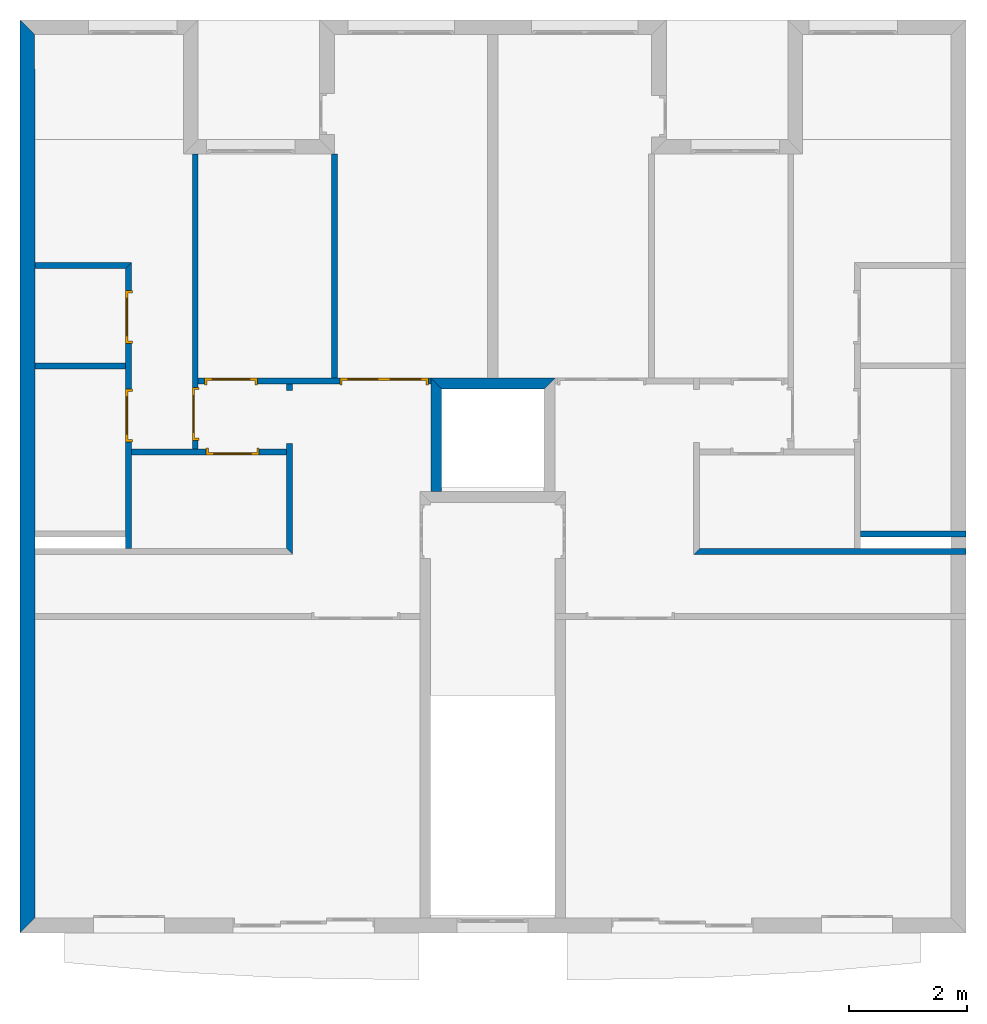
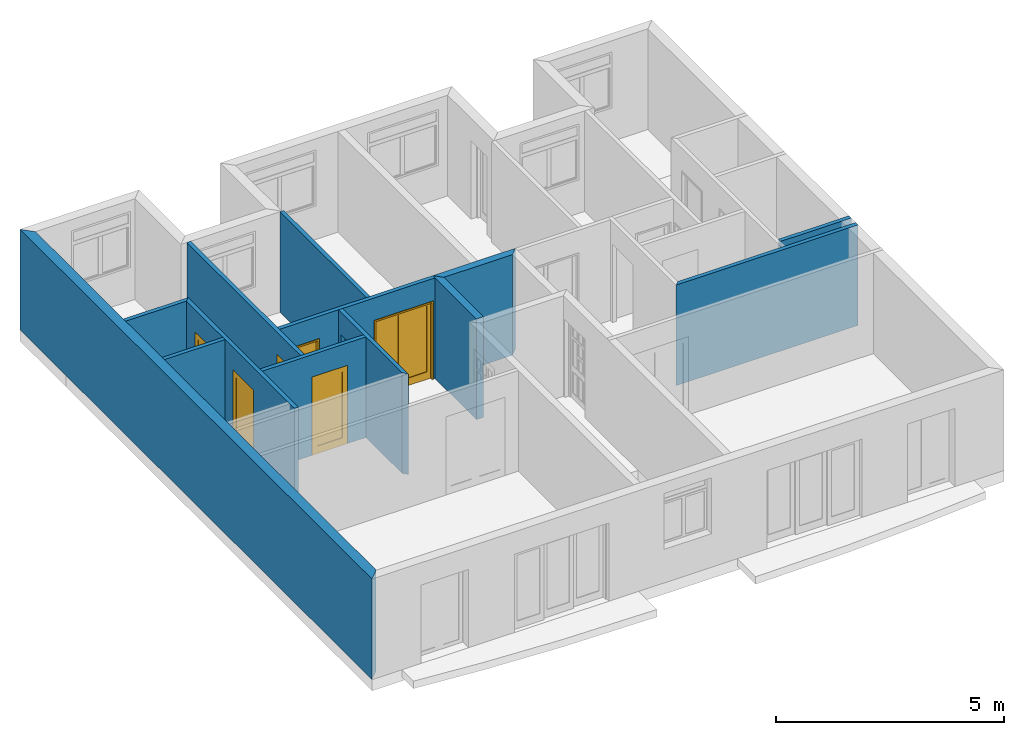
# One storey, part 7 of 11: 13 walls, 6 doors, 7 openings.
"""IFC2X3 building model written with IfcOpenShell, lengths in metres."""

from ifc_helpers import new_model, entity, si_unit, converted_unit, direction, frame, frame_2d, origin_with_axes, place, context, project, spatial, polyline, rectangle, outline, extrude, faceted_brep, source, transform, mapped, material, layer, layer_set, layer_usage, type_object, element, fill, save


model = new_model("IFC2X3")

# Units and contexts
context_of_model = context(None, 3, precision=1e-05, world=origin_with_axes(), true_north=direction((6.123234e-17, 1.0)))
plan_context = context("Plan", 3, precision=1e-05, world=origin_with_axes(), true_north=direction((6.123234e-17, 1.0)))
model_context = context("Model", 3, precision=1e-05, world=origin_with_axes(), true_north=direction((6.123234e-17, 1.0)))
ifc_project = project(units=[si_unit("LENGTHUNIT", "METRE"), si_unit("AREAUNIT", "SQUARE_METRE"), si_unit("VOLUMEUNIT", "CUBIC_METRE"), converted_unit("PLANEANGLEUNIT", "DEGREE", entity("IfcPlaneAngleMeasure", 0.017453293), si_unit("PLANEANGLEUNIT", "RADIAN"), dimensions=[0, 0, 0, 0, 0, 0, 0]), si_unit("SOLIDANGLEUNIT", "STERADIAN"), si_unit("MASSUNIT", "GRAM"), si_unit("TIMEUNIT", "SECOND"), si_unit("THERMODYNAMICTEMPERATUREUNIT", "DEGREE_CELSIUS"), si_unit("LUMINOUSINTENSITYUNIT", "LUMEN")], contexts=[context_of_model, plan_context, model_context])

# Site, building, storey
site_placement = place(None, origin_with_axes())
site = spatial("IfcSite", under=ifc_project, at=site_placement, Name="Por defecto Sitio", CompositionType="ELEMENT")
building_placement = place(site_placement, origin_with_axes())
building = spatial("IfcBuilding", under=site, at=building_placement, Name="Por defecto Edificio", CompositionType="ELEMENT")
storey_placement = place(building_placement, frame((0.0, 0.0, 13.2), z_axis=(0.0, 0.0, 1.0), x_axis=(1.0, 0.0, 0.0)))
storey = spatial("IfcBuildingStorey", under=building, at=storey_placement, Name="Cuarta", CompositionType="ELEMENT", Elevation=13.2)

# Walls
ifc_material_1 = material(Name="Doble 1:4")
ifc_layer_1 = layer(ifc_material_1, 0.25, ventilated="UNKNOWN")
ifc_layer_set_1 = layer_set([ifc_layer_1], Name="Doble 1:4")
ifc_layer_usage_1 = layer_usage(ifc_layer_set_1, "AXIS2", "NEGATIVE", 0.0)
wall_type_1 = type_object("IfcWallType", Name="Doble 1:4", PredefinedType="NOTDEFINED")
wall_1_placement = place(storey_placement, frame((0.0, 0.0, 0.0), z_axis=(0.0, 0.0, 1.0), x_axis=(-3.0822116e-05, 1.0, 0.0)))
element("IfcWallStandardCase", 1, at=wall_1_placement, inside=storey, type_object=wall_type_1, material=ifc_layer_usage_1, Name="Muro-011", context=context_of_model, shape_type="SweptSolid", body=[
    extrude(outline(polyline([(0.24999229, -0.25), (15.222591, -0.25), (15.472599, -1.0842022e-19), (0.0, 0.0), (0.24999229, -0.25)])), origin_with_axes(), (0.0, 0.0, 1.0), 2.7),
])
ifc_material_2 = material(Name="Ladrillo común")
ifc_layer_2 = layer(ifc_material_2, 0.18, ventilated="UNKNOWN")
ifc_layer_set_2 = layer_set([ifc_layer_2], Name="Ladrillo común")
ifc_layer_usage_2 = layer_usage(ifc_layer_set_2, "AXIS2", "NEGATIVE", 0.0)
wall_type_2 = type_object("IfcWallType", Name="Ladrillo común", PredefinedType="NOTDEFINED")
wall_2_placement = place(storey_placement, frame((6.965, 9.4007615, 0.0), z_axis=(0.0, 0.0, 1.0), x_axis=(1.0, 0.0, 0.0)))
element("IfcWallStandardCase", 2, at=wall_2_placement, inside=storey, type_object=wall_type_2, material=ifc_layer_usage_2, Name="Muro-012", context=context_of_model, shape_type="SweptSolid", body=[
    extrude(outline(polyline([(0.18, -0.18), (1.92, -0.18), (2.1, 0.0), (-8.8817842e-16, 0.0), (0.18, -0.18)])), origin_with_axes(), (0.0, 0.0, 1.0), 2.7),
])
ifc_layer_usage_3 = layer_usage(ifc_layer_set_2, "AXIS2", "NEGATIVE", 0.0)
wall_3_placement = place(storey_placement, frame((6.965, 7.2976562, 0.0), z_axis=(0.0, 0.0, 1.0), x_axis=(0.0, 1.0, 0.0)))
element("IfcWallStandardCase", 3, at=wall_3_placement, inside=storey, type_object=wall_type_2, material=ifc_layer_usage_3, Name="Muro-011", context=context_of_model, shape_type="SweptSolid", body=[
    extrude(outline(polyline([(0.18, -0.18), (1.9231052, -0.18), (2.1031052, 0.0), (0.18, 8.8817842e-16), (0.18, -0.18)])), origin_with_axes(), (0.0, 0.0, 1.0), 2.7),
])
ifc_layer_3 = layer(ifc_material_2, 0.1, ventilated="UNKNOWN")
ifc_layer_set_3 = layer_set([ifc_layer_3], Name="Ladrillo común")
ifc_layer_usage_4 = layer_usage(ifc_layer_set_3, "AXIS2", "NEGATIVE", 0.0)
wall_type_3 = type_object("IfcWallType", Name="Ladrillo común", PredefinedType="NOTDEFINED")
wall_4_placement = place(storey_placement, frame((14.245327, 6.8118781, 0.0), z_axis=(0.0, 0.0, 1.0), x_axis=(1.0, 7.740581e-05, 0.0)))
element("IfcWallStandardCase", 4, at=wall_4_placement, inside=storey, type_object=wall_type_3, material=ifc_layer_usage_4, Name="Muro-021", context=context_of_model, shape_type="SweptSolid", body=[
    extrude(outline(polyline([(-4.5792175e-06, -0.1), (1.7904075, -0.1), (1.7904075, -8.8817842e-16), (-6.6233584e-06, -8.8817842e-16), (-4.5792175e-06, -0.1)])), origin_with_axes(), (0.0, 0.0, 1.0), 2.7),
])
ifc_layer_usage_5 = layer_usage(ifc_layer_set_3, "AXIS2", "NEGATIVE", 0.0)
wall_5_placement = place(storey_placement, frame((11.515557, 6.51159, 0.0), z_axis=(0.0, 0.0, 1.0), x_axis=(1.0, 7.5775334e-05, 0.0)))
element("IfcWallStandardCase", 5, at=wall_5_placement, inside=storey, type_object=wall_type_3, material=ifc_layer_usage_5, Name="Muro-020", context=context_of_model, shape_type="SweptSolid", body=[
    extrude(outline(polyline([(-0.099998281, -0.1), (4.5202007, -0.1), (4.5202007, 0.0), (0.0, 0.0), (-0.099998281, -0.1)])), origin_with_axes(), (0.0, 0.0, 1.0), 2.7),
])
ifc_layer_usage_6 = layer_usage(ifc_layer_set_3, "AXIS2", "POSITIVE", 0.0)
wall_6_placement = place(storey_placement, frame((5.3815582, 9.4007615, 0.0), z_axis=(0.0, 0.0, 1.0), x_axis=(0.0, 1.0, 0.0)))
element("IfcWallStandardCase", 6, at=wall_6_placement, inside=storey, type_object=wall_type_3, material=ifc_layer_usage_6, Name="Muro-026", context=context_of_model, shape_type="SweptSolid", body=[
    extrude(outline(polyline([(0.0, 0.0), (3.7984111, 0.0), (3.7984111, 0.1), (0.0, 0.1), (0.0, 0.0)])), origin_with_axes(), (0.0, 0.0, 1.0), 2.7),
])

# Wall, openings, doors
ifc_layer_usage_7 = layer_usage(ifc_layer_set_3, "AXIS2", "POSITIVE", 0.0)
wall_7_placement = place(storey_placement, frame((6.965, 9.4007615, 0.0), z_axis=(0.0, 0.0, 1.0), x_axis=(-1.0, -7.8004649e-06, 0.0)))
wall_7 = element("IfcWallStandardCase", 7, at=wall_7_placement, inside=storey, type_object=wall_type_3, material=ifc_layer_usage_7, Name="Muro-025", context=context_of_model, shape_type="SweptSolid", body=[
    extrude(outline(polyline([(8.8817842e-16, 0.0), (3.9449598, -1.7763568e-15), (3.9449596, 0.1), (7.8004649e-07, 0.1), (8.8817842e-16, 0.0)])), origin_with_axes(), (0.0, 0.0, 1.0), 2.7),
])
opening_1_placement = place(wall_7_placement, frame((3.3886584, 0.0, 0.0), z_axis=(0.0, 0.0, 1.0), x_axis=(1.0, 0.0, 0.0)))
opening_1 = element("IfcOpeningElement", 8, at=opening_1_placement, cuts=wall_7, ObjectType="Opening", context=model_context, shape_type="SweptSolid", body=[
    extrude(rectangle(XDim=0.9, YDim=2.1, at=frame_2d((6.6613381e-16, 1.05), x_axis=(-1.0, -2.1147105e-16))), frame((0.0, 0.0, 0.0), z_axis=(0.0, 1.0, 0.0), x_axis=(-1.0, 0.0, 0.0)), (0.0, 0.0, 1.0), 0.1),
])
opening_2_placement = place(wall_7_placement, frame((0.7934418, 0.0, 0.0), z_axis=(0.0, 0.0, 1.0), x_axis=(1.0, 0.0, 0.0)))
opening_2 = element("IfcOpeningElement", 9, at=opening_2_placement, cuts=wall_7, ObjectType="Opening", context=model_context, shape_type="SweptSolid", body=[
    extrude(rectangle(XDim=1.5, YDim=2.1, at=frame_2d((8.8817842e-16, 1.05), x_axis=(1.0, 0.0))), frame((0.0, 0.0, 0.0), z_axis=(0.0, 1.0, 0.0), x_axis=(-1.0, 0.0, 0.0)), (0.0, 0.0, 1.0), 0.1),
])
door_style_1 = type_object("IfcDoorStyle", Name="P1 12", ConstructionType="NOTDEFINED", OperationType="SINGLE_SWING_LEFT", ParameterTakesPrecedence=False, Sizeable=False)
shared_shape_1 = source(origin_with_axes(), model_context, "Body", "Brep", [
    faceted_brep([(0.86, 0.075, 0.0), (0.86, 0.0, 0.0), (0.86, 0.0, 2.06), (0.86, 0.075, 2.06), (0.872, 0.075, 0.0), (0.872, 0.115, 0.0), (0.9, 0.115, 0.0), (0.9, 0.0, 0.0), (0.9, 0.0, 2.06), (0.872, 0.075, 2.06), (0.9, 0.115, 2.06), (0.872, 0.115, 2.06)], [[[0, 1, 2, 3]], [[4, 5, 6, 7, 1, 0]], [[7, 8, 2, 1]], [[9, 3, 2, 8, 10, 11]], [[9, 4, 0, 3]], [[11, 5, 4, 9]], [[11, 10, 6, 5]], [[8, 7, 6, 10]]]),
    faceted_brep([(0.028, 0.075, 2.06), (0.028, 0.115, 2.06), (-4.4408921e-16, 0.115, 2.06), (-4.4408921e-16, 0.0, 2.06), (0.04, 0.0, 2.06), (0.04, 0.075, 2.06), (0.028, 0.075, 0.0), (0.028, 0.115, 0.0), (-4.4408921e-16, 0.115, 0.0), (0.0, 0.0, 0.0), (0.04, 0.0, 0.0), (0.04, 0.075, 0.0)], [[[0, 1, 2, 3, 4, 5]], [[0, 6, 7, 1]], [[7, 8, 2, 1]], [[9, 3, 2, 8]], [[10, 4, 3, 9]], [[5, 4, 10, 11]], [[5, 11, 6, 0]], [[6, 11, 10, 9, 8, 7]]]),
    faceted_brep([(0.872, 0.115, 2.072), (0.028, 0.115, 2.072), (0.028, 0.115, 2.06), (-4.4408921e-16, 0.115, 2.06), (-4.4408921e-16, 0.115, 2.1), (0.9, 0.115, 2.1), (0.9, 0.115, 2.06), (0.872, 0.115, 2.06), (0.872, 0.075, 2.072), (0.028, 0.075, 2.072), (0.028, 0.075, 2.06), (0.04, 0.075, 2.06), (0.04, 0.0, 2.06), (-4.4408921e-16, 0.0, 2.06), (-4.4408921e-16, 0.0, 2.1), (0.9, 0.0, 2.1), (0.9, 0.0, 2.06), (0.872, 0.075, 2.06), (0.86, 0.0, 2.06), (0.86, 0.075, 2.06)], [[[0, 1, 2, 3, 4, 5, 6, 7]], [[0, 8, 9, 1]], [[1, 9, 10, 2]], [[10, 11, 12, 13, 3, 2]], [[13, 14, 4, 3]], [[14, 15, 5, 4]], [[15, 16, 6, 5]], [[17, 7, 6, 16, 18, 19]], [[7, 17, 8, 0]], [[10, 9, 8, 17, 19, 11]], [[19, 18, 12, 11]], [[14, 13, 12, 18, 16, 15]]]),
    faceted_brep([(0.028, 0.115, 0.2), (0.128, 0.115, 0.2), (0.128, 0.075, 0.2), (0.028, 0.075, 0.2), (0.028, 0.115, 1.972), (0.128, 0.115, 1.972), (0.128, 0.075, 1.972), (0.028, 0.075, 1.972)], [[[0, 1, 2, 3]], [[0, 4, 5, 1]], [[1, 5, 6, 2]], [[3, 2, 6, 7]], [[4, 0, 3, 7]], [[5, 4, 7, 6]]]),
    faceted_brep([(0.872, 0.115, 0.2), (0.872, 0.115, 1.972), (0.872, 0.075, 1.972), (0.872, 0.075, 0.2), (0.772, 0.115, 0.2), (0.772, 0.115, 1.972), (0.772, 0.075, 1.972), (0.772, 0.075, 0.2)], [[[0, 1, 2, 3]], [[0, 4, 5, 1]], [[1, 5, 6, 2]], [[3, 2, 6, 7]], [[4, 0, 3, 7]], [[5, 4, 7, 6]]]),
    faceted_brep([(0.028, 0.115, 0.0), (0.872, 0.115, 0.0), (0.872, 0.075, 0.0), (0.028, 0.075, 0.0), (0.028, 0.115, 0.2), (0.128, 0.115, 0.2), (0.772, 0.115, 0.2), (0.872, 0.115, 0.2), (0.872, 0.075, 0.2), (0.772, 0.075, 0.2), (0.128, 0.075, 0.2), (0.028, 0.075, 0.2)], [[[0, 1, 2, 3]], [[0, 4, 5, 6, 7, 1]], [[1, 7, 8, 2]], [[3, 2, 8, 9, 10, 11]], [[4, 0, 3, 11]], [[5, 4, 11, 10]], [[6, 5, 10, 9]], [[7, 6, 9, 8]]]),
    faceted_brep([(0.028, 0.115, 2.072), (0.028, 0.115, 1.972), (0.028, 0.075, 1.972), (0.028, 0.075, 2.072), (0.872, 0.115, 2.072), (0.872, 0.115, 1.972), (0.772, 0.115, 1.972), (0.128, 0.115, 1.972), (0.128, 0.075, 1.972), (0.772, 0.075, 1.972), (0.872, 0.075, 1.972), (0.872, 0.075, 2.072)], [[[0, 1, 2, 3]], [[0, 4, 5, 6, 7, 1]], [[1, 7, 8, 2]], [[3, 2, 8, 9, 10, 11]], [[4, 0, 3, 11]], [[5, 4, 11, 10]], [[6, 5, 10, 9]], [[7, 6, 9, 8]]]),
    faceted_brep([(0.128, 0.101, 0.2), (0.772, 0.101, 0.2), (0.772, 0.089, 0.2), (0.128, 0.089, 0.2), (0.128, 0.101, 1.972), (0.772, 0.101, 1.972), (0.772, 0.089, 1.972), (0.128, 0.089, 1.972)], [[[0, 1, 2, 3]], [[0, 4, 5, 1]], [[1, 5, 6, 2]], [[3, 2, 6, 7]], [[4, 0, 3, 7]], [[5, 4, 7, 6]]]),
])
door_1_placement = place(opening_1_placement, frame((0.45, 0.115, 0.0), z_axis=(0.0, 0.0, 1.0), x_axis=(-1.0, 0.0, 0.0)))
door_1 = element("IfcDoor", 10, at=door_1_placement, inside=storey, type_object=door_style_1, Name="P19", OverallHeight=2.1, OverallWidth=0.9, context=model_context, shape_type="MappedRepresentation", body=[
    mapped(shared_shape_1, transform((0.0, 0.0, 0.0), scale=1.0)),
])
fill(opening_1, door_1)
door_style_2 = type_object("IfcDoorStyle", Name="P2 12", ConstructionType="NOTDEFINED", OperationType="DOUBLE_DOOR_SINGLE_SWING", ParameterTakesPrecedence=False, Sizeable=False)
shared_shape_2 = source(origin_with_axes(), model_context, "Body", "Brep", [
    faceted_brep([(0.04, 0.075, 0.0), (0.04, 0.075, 2.06), (0.04, 0.0, 2.06), (0.04, 0.0, 0.0), (0.028, 0.075, 2.06), (0.028, 0.075, 0.0), (0.028, 0.115, 2.06), (0.0, 0.115, 2.06), (0.0, 0.0, 2.06), (0.0, 0.0, 0.0), (0.0, 0.115, 0.0), (0.028, 0.115, 0.0)], [[[0, 1, 2, 3]], [[4, 1, 0, 5]], [[4, 6, 7, 8, 2, 1]], [[9, 3, 2, 8]], [[5, 0, 3, 9, 10, 11]], [[6, 4, 5, 11]], [[6, 11, 10, 7]], [[8, 7, 10, 9]]]),
    faceted_brep([(1.472, 0.075, 2.06), (1.46, 0.075, 2.06), (1.46, 0.0, 2.06), (1.5, 0.0, 2.06), (1.5, 0.115, 2.06), (1.472, 0.115, 2.06), (1.472, 0.075, 0.0), (1.46, 0.075, 0.0), (1.46, 0.0, 0.0), (1.5, 0.0, 0.0), (1.5, 0.115, 0.0), (1.472, 0.115, 0.0)], [[[0, 1, 2, 3, 4, 5]], [[1, 0, 6, 7]], [[1, 7, 8, 2]], [[8, 9, 3, 2]], [[9, 10, 4, 3]], [[11, 5, 4, 10]], [[0, 5, 11, 6]], [[6, 11, 10, 9, 8, 7]]]),
    faceted_brep([(0.028, 0.115, 2.072), (0.028, 0.115, 2.06), (0.0, 0.115, 2.06), (0.0, 0.115, 2.1), (1.5, 0.115, 2.1), (1.5, 0.115, 2.06), (1.472, 0.115, 2.06), (1.472, 0.115, 2.072), (0.028, 0.075, 2.072), (0.028, 0.075, 2.06), (0.04, 0.075, 2.06), (0.04, 0.0, 2.06), (0.0, 0.0, 2.06), (0.0, 0.0, 2.1), (1.5, 0.0, 2.1), (1.5, 0.0, 2.06), (1.472, 0.075, 2.06), (1.46, 0.0, 2.06), (1.46, 0.075, 2.06), (1.472, 0.075, 2.072)], [[[0, 1, 2, 3, 4, 5, 6, 7]], [[1, 0, 8, 9]], [[9, 10, 11, 12, 2, 1]], [[13, 3, 2, 12]], [[14, 4, 3, 13]], [[15, 5, 4, 14]], [[16, 6, 5, 15, 17, 18]], [[7, 6, 16, 19]], [[0, 7, 19, 8]], [[16, 18, 10, 9, 8, 19]], [[10, 18, 17, 11]], [[14, 13, 12, 11, 17, 15]]]),
    faceted_brep([(1.472, 0.115, 0.2), (1.472, 0.075, 0.2), (1.372, 0.075, 0.2), (1.372, 0.115, 0.2), (1.472, 0.115, 1.972), (1.472, 0.075, 1.972), (1.372, 0.075, 1.972), (1.372, 0.115, 1.972)], [[[0, 1, 2, 3]], [[4, 5, 1, 0]], [[1, 5, 6, 2]], [[3, 2, 6, 7]], [[0, 3, 7, 4]], [[7, 6, 5, 4]]]),
    faceted_brep([(0.751, 0.115, 0.2), (0.751, 0.075, 0.2), (0.751, 0.075, 1.972), (0.751, 0.115, 1.972), (0.851, 0.115, 0.2), (0.851, 0.075, 0.2), (0.851, 0.075, 1.972), (0.851, 0.115, 1.972)], [[[0, 1, 2, 3]], [[4, 5, 1, 0]], [[1, 5, 6, 2]], [[3, 2, 6, 7]], [[0, 3, 7, 4]], [[7, 6, 5, 4]]]),
    faceted_brep([(1.472, 0.115, 0.0), (1.472, 0.075, 0.0), (0.751, 0.075, 0.0), (0.751, 0.115, 0.0), (1.472, 0.115, 0.2), (1.472, 0.075, 0.2), (1.372, 0.075, 0.2), (0.851, 0.075, 0.2), (0.751, 0.075, 0.2), (0.751, 0.115, 0.2), (0.851, 0.115, 0.2), (1.372, 0.115, 0.2)], [[[0, 1, 2, 3]], [[4, 5, 1, 0]], [[1, 5, 6, 7, 8, 2]], [[3, 2, 8, 9]], [[0, 3, 9, 10, 11, 4]], [[11, 6, 5, 4]], [[10, 7, 6, 11]], [[9, 8, 7, 10]]]),
    faceted_brep([(1.472, 0.115, 2.072), (1.472, 0.075, 2.072), (1.472, 0.075, 1.972), (1.472, 0.115, 1.972), (0.751, 0.115, 2.072), (0.751, 0.075, 2.072), (0.751, 0.075, 1.972), (0.851, 0.075, 1.972), (1.372, 0.075, 1.972), (1.372, 0.115, 1.972), (0.851, 0.115, 1.972), (0.751, 0.115, 1.972)], [[[0, 1, 2, 3]], [[4, 5, 1, 0]], [[1, 5, 6, 7, 8, 2]], [[3, 2, 8, 9]], [[0, 3, 9, 10, 11, 4]], [[11, 6, 5, 4]], [[10, 7, 6, 11]], [[9, 8, 7, 10]]]),
    faceted_brep([(1.372, 0.101, 0.2), (1.372, 0.089, 0.2), (0.851, 0.089, 0.2), (0.851, 0.101, 0.2), (1.372, 0.101, 1.972), (1.372, 0.089, 1.972), (0.851, 0.089, 1.972), (0.851, 0.101, 1.972)], [[[0, 1, 2, 3]], [[4, 5, 1, 0]], [[1, 5, 6, 2]], [[3, 2, 6, 7]], [[0, 3, 7, 4]], [[7, 6, 5, 4]]]),
    faceted_brep([(0.028, 0.115, 0.2), (0.128, 0.115, 0.2), (0.128, 0.075, 0.2), (0.028, 0.075, 0.2), (0.028, 0.115, 1.972), (0.128, 0.115, 1.972), (0.128, 0.075, 1.972), (0.028, 0.075, 1.972)], [[[0, 1, 2, 3]], [[0, 4, 5, 1]], [[1, 5, 6, 2]], [[3, 2, 6, 7]], [[4, 0, 3, 7]], [[5, 4, 7, 6]]]),
    faceted_brep([(0.749, 0.115, 0.2), (0.749, 0.115, 1.972), (0.749, 0.075, 1.972), (0.749, 0.075, 0.2), (0.649, 0.115, 0.2), (0.649, 0.115, 1.972), (0.649, 0.075, 1.972), (0.649, 0.075, 0.2)], [[[0, 1, 2, 3]], [[0, 4, 5, 1]], [[1, 5, 6, 2]], [[3, 2, 6, 7]], [[4, 0, 3, 7]], [[5, 4, 7, 6]]]),
    faceted_brep([(0.028, 0.115, 0.0), (0.749, 0.115, 0.0), (0.749, 0.075, 0.0), (0.028, 0.075, 0.0), (0.028, 0.115, 0.2), (0.128, 0.115, 0.2), (0.649, 0.115, 0.2), (0.749, 0.115, 0.2), (0.749, 0.075, 0.2), (0.649, 0.075, 0.2), (0.128, 0.075, 0.2), (0.028, 0.075, 0.2)], [[[0, 1, 2, 3]], [[0, 4, 5, 6, 7, 1]], [[1, 7, 8, 2]], [[3, 2, 8, 9, 10, 11]], [[4, 0, 3, 11]], [[5, 4, 11, 10]], [[6, 5, 10, 9]], [[7, 6, 9, 8]]]),
    faceted_brep([(0.028, 0.115, 2.072), (0.028, 0.115, 1.972), (0.028, 0.075, 1.972), (0.028, 0.075, 2.072), (0.749, 0.115, 2.072), (0.749, 0.115, 1.972), (0.649, 0.115, 1.972), (0.128, 0.115, 1.972), (0.128, 0.075, 1.972), (0.649, 0.075, 1.972), (0.749, 0.075, 1.972), (0.749, 0.075, 2.072)], [[[0, 1, 2, 3]], [[0, 4, 5, 6, 7, 1]], [[1, 7, 8, 2]], [[3, 2, 8, 9, 10, 11]], [[4, 0, 3, 11]], [[5, 4, 11, 10]], [[6, 5, 10, 9]], [[7, 6, 9, 8]]]),
    faceted_brep([(0.128, 0.101, 0.2), (0.649, 0.101, 0.2), (0.649, 0.089, 0.2), (0.128, 0.089, 0.2), (0.128, 0.101, 1.972), (0.649, 0.101, 1.972), (0.649, 0.089, 1.972), (0.128, 0.089, 1.972)], [[[0, 1, 2, 3]], [[0, 4, 5, 1]], [[1, 5, 6, 2]], [[3, 2, 6, 7]], [[4, 0, 3, 7]], [[5, 4, 7, 6]]]),
])
door_2_placement = place(opening_2_placement, frame((0.75, 0.115, 0.0), z_axis=(0.0, 0.0, 1.0), x_axis=(-1.0, 0.0, 0.0)))
door_2 = element("IfcDoor", 11, at=door_2_placement, inside=storey, type_object=door_style_2, Name="P27", OverallHeight=2.1, OverallWidth=1.5, context=model_context, shape_type="MappedRepresentation", body=[
    mapped(shared_shape_2, transform((0.0, 0.0, 0.0), scale=1.0)),
])
fill(opening_2, door_2)

# Wall, opening, door
ifc_layer_usage_8 = layer_usage(ifc_layer_set_3, "AXIS2", "POSITIVE", 0.0)
wall_8_placement = place(storey_placement, frame((3.0200521, 8.2011967, 0.0), z_axis=(0.0, 0.0, 1.0), x_axis=(-9.9218177e-06, 1.0, 0.0)))
wall_8 = element("IfcWallStandardCase", 12, at=wall_8_placement, inside=storey, type_object=wall_type_3, material=ifc_layer_usage_8, Name="Muro-024", context=context_of_model, shape_type="SweptSolid", body=[
    extrude(outline(polyline([(0.0, 0.0), (4.9979759, 4.4408921e-16), (4.9979768, 0.1), (-3.7059306e-07, 0.1), (0.0, 0.0)])), origin_with_axes(), (0.0, 0.0, 1.0), 2.7),
])
opening_3_placement = place(wall_8_placement, frame((0.59454019, 0.0, 0.0), z_axis=(0.0, 0.0, 1.0), x_axis=(1.0, 0.0, 0.0)))
opening_3 = element("IfcOpeningElement", 13, at=opening_3_placement, cuts=wall_8, ObjectType="Opening", context=model_context, shape_type="SweptSolid", body=[
    extrude(rectangle(XDim=0.9, YDim=2.1, at=frame_2d((0.0, 1.05), x_axis=(-1.0, 0.0))), frame((0.0, 0.0, 0.0), z_axis=(0.0, 1.0, 0.0), x_axis=(-1.0, 0.0, 0.0)), (0.0, 0.0, 1.0), 0.1),
])
door_style_3 = type_object("IfcDoorStyle", Name="P1 12", ConstructionType="NOTDEFINED", OperationType="SINGLE_SWING_LEFT", ParameterTakesPrecedence=False, Sizeable=False)
door_3_placement = place(opening_3_placement, frame((-0.45, -0.015, 0.0), z_axis=(0.0, 0.0, 1.0), x_axis=(1.0, 0.0, 0.0)))
door_3 = element("IfcDoor", 14, at=door_3_placement, inside=storey, type_object=door_style_3, Name="P18", OverallHeight=2.1, OverallWidth=0.9, context=model_context, shape_type="MappedRepresentation", body=[
    mapped(shared_shape_1, transform((0.0, 0.0, 0.0), scale=1.0)),
])
fill(opening_3, door_3)

# Walls
ifc_layer_usage_9 = layer_usage(ifc_layer_set_3, "AXIS2", "NEGATIVE", 0.0)
wall_9_placement = place(storey_placement, frame((1.7901652, 9.5609196, 0.0), z_axis=(0.0, 0.0, 1.0), x_axis=(-1.0, -3.0822116e-05, 0.0)))
element("IfcWallStandardCase", 15, at=wall_9_placement, inside=storey, type_object=wall_type_3, material=ifc_layer_usage_9, Name="Muro-023", context=context_of_model, shape_type="SweptSolid", body=[
    extrude(outline(polyline([(-2.220446e-16, -0.1), (1.5404599, -0.1), (1.5404599, 0.0), (0.0, 0.0), (-2.220446e-16, -0.1)])), origin_with_axes(), (0.0, 0.0, 1.0), 2.7),
])
ifc_layer_usage_10 = layer_usage(ifc_layer_set_3, "AXIS2", "NEGATIVE", 0.0)
wall_10_placement = place(storey_placement, frame((1.7901652, 11.26092, 0.0), z_axis=(0.0, 0.0, 1.0), x_axis=(-1.0, -3.0822116e-05, 0.0)))
element("IfcWallStandardCase", 16, at=wall_10_placement, inside=storey, type_object=wall_type_3, material=ifc_layer_usage_10, Name="Muro-022", context=context_of_model, shape_type="SweptSolid", body=[
    extrude(outline(polyline([(-0.10000221, -0.1), (1.5405123, -0.1), (1.5405123, 1.7763568e-15), (0.0, 0.0), (-0.10000221, -0.1)])), origin_with_axes(), (0.0, 0.0, 1.0), 2.7),
])

# Wall, opening, door
ifc_layer_usage_11 = layer_usage(ifc_layer_set_3, "AXIS2", "POSITIVE", 0.0)
wall_11_placement = place(storey_placement, frame((4.52, 8.2012172, 0.0), z_axis=(0.0, 0.0, 1.0), x_axis=(-1.0, -1.3627748e-05, 0.0)))
wall_11 = element("IfcWallStandardCase", 17, at=wall_11_placement, inside=storey, type_object=wall_type_3, material=ifc_layer_usage_11, Name="Muro-024", context=context_of_model, shape_type="SweptSolid", body=[
    extrude(outline(polyline([(0.0, 0.0), (2.629808, 3.5527137e-15), (2.6298085, 0.1), (0.0, 0.1), (0.0, 0.0)])), origin_with_axes(), (0.0, 0.0, 1.0), 2.7),
])
opening_4_placement = place(wall_11_placement, frame((0.91651248, 0.0, 0.0), z_axis=(0.0, 0.0, 1.0), x_axis=(1.0, 0.0, 0.0)))
opening_4 = element("IfcOpeningElement", 18, at=opening_4_placement, cuts=wall_11, ObjectType="Opening", context=model_context, shape_type="SweptSolid", body=[
    extrude(rectangle(XDim=0.9, YDim=2.1, at=frame_2d((-2.220446e-16, 1.05), x_axis=(-1.0, 0.0))), frame((0.0, 0.0, 0.0), z_axis=(0.0, 1.0, 0.0), x_axis=(-1.0, 0.0, 0.0)), (0.0, 0.0, 1.0), 0.1),
])
door_style_4 = type_object("IfcDoorStyle", Name="P1 12", ConstructionType="NOTDEFINED", OperationType="SINGLE_SWING_RIGHT", ParameterTakesPrecedence=False, Sizeable=False)
shared_shape_3 = source(origin_with_axes(), model_context, "Body", "Brep", [
    faceted_brep([(0.04, 0.075, -2.4492936e-18), (0.04, 0.075, 2.06), (0.04, 0.0, 2.06), (0.04, 0.0, -7.0417191e-18), (0.028, 0.075, 2.06), (0.028, 0.075, -2.4492936e-18), (0.028, 0.115, 2.06), (0.0, 0.115, 2.06), (0.0, 0.0, 2.06), (0.0, 0.0, 0.0), (0.0, 0.115, 3.3744595e-33), (0.028, 0.115, 3.2707143e-33)], [[[0, 1, 2, 3]], [[4, 1, 0, 5]], [[4, 6, 7, 8, 2, 1]], [[9, 3, 2, 8]], [[5, 0, 3, 9, 10, 11]], [[6, 4, 5, 11]], [[6, 11, 10, 7]], [[8, 7, 10, 9]]]),
    faceted_brep([(0.872, 0.075, 2.06), (0.86, 0.075, 2.06), (0.86, 0.0, 2.06), (0.9, 0.0, 2.06), (0.9, 0.115, 2.06), (0.872, 0.115, 2.06), (0.872, 0.075, -2.4492936e-18), (0.86, 0.075, -2.4492936e-18), (0.86, 0.0, -7.0417191e-18), (0.9, 0.0, -7.0417191e-18), (0.9, 0.115, -3.3744595e-33), (0.872, 0.115, -3.1644931e-33)], [[[0, 1, 2, 3, 4, 5]], [[1, 0, 6, 7]], [[1, 7, 8, 2]], [[8, 9, 3, 2]], [[9, 10, 4, 3]], [[11, 5, 4, 10]], [[0, 5, 11, 6]], [[6, 11, 10, 9, 8, 7]]]),
    faceted_brep([(0.028, 0.115, 2.072), (0.028, 0.115, 2.06), (0.0, 0.115, 2.06), (0.0, 0.115, 2.1), (0.9, 0.115, 2.1), (0.9, 0.115, 2.06), (0.872, 0.115, 2.06), (0.872, 0.115, 2.072), (0.028, 0.075, 2.072), (0.028, 0.075, 2.06), (0.04, 0.075, 2.06), (0.04, 0.0, 2.06), (0.0, 0.0, 2.06), (0.0, 0.0, 2.1), (0.9, 0.0, 2.1), (0.9, 0.0, 2.06), (0.872, 0.075, 2.06), (0.86, 0.0, 2.06), (0.86, 0.075, 2.06), (0.872, 0.075, 2.072)], [[[0, 1, 2, 3, 4, 5, 6, 7]], [[1, 0, 8, 9]], [[9, 10, 11, 12, 2, 1]], [[13, 3, 2, 12]], [[14, 4, 3, 13]], [[15, 5, 4, 14]], [[16, 6, 5, 15, 17, 18]], [[7, 6, 16, 19]], [[0, 7, 19, 8]], [[16, 18, 10, 9, 8, 19]], [[10, 18, 17, 11]], [[14, 13, 12, 11, 17, 15]]]),
    faceted_brep([(0.872, 0.115, 0.2), (0.872, 0.075, 0.2), (0.772, 0.075, 0.2), (0.772, 0.115, 0.2), (0.872, 0.115, 1.972), (0.872, 0.075, 1.972), (0.772, 0.075, 1.972), (0.772, 0.115, 1.972)], [[[0, 1, 2, 3]], [[4, 5, 1, 0]], [[1, 5, 6, 2]], [[3, 2, 6, 7]], [[0, 3, 7, 4]], [[7, 6, 5, 4]]]),
    faceted_brep([(0.028, 0.115, 0.2), (0.028, 0.075, 0.2), (0.028, 0.075, 1.972), (0.028, 0.115, 1.972), (0.128, 0.115, 0.2), (0.128, 0.075, 0.2), (0.128, 0.075, 1.972), (0.128, 0.115, 1.972)], [[[0, 1, 2, 3]], [[4, 5, 1, 0]], [[1, 5, 6, 2]], [[3, 2, 6, 7]], [[0, 3, 7, 4]], [[7, 6, 5, 4]]]),
    faceted_brep([(0.872, 0.115, -3.1644931e-33), (0.872, 0.075, -2.4492936e-18), (0.028, 0.075, -2.4492936e-18), (0.028, 0.115, 3.1644931e-33), (0.872, 0.115, 0.2), (0.872, 0.075, 0.2), (0.772, 0.075, 0.2), (0.128, 0.075, 0.2), (0.028, 0.075, 0.2), (0.028, 0.115, 0.2), (0.128, 0.115, 0.2), (0.772, 0.115, 0.2)], [[[0, 1, 2, 3]], [[4, 5, 1, 0]], [[1, 5, 6, 7, 8, 2]], [[3, 2, 8, 9]], [[0, 3, 9, 10, 11, 4]], [[11, 6, 5, 4]], [[10, 7, 6, 11]], [[9, 8, 7, 10]]]),
    faceted_brep([(0.872, 0.115, 2.072), (0.872, 0.075, 2.072), (0.872, 0.075, 1.972), (0.872, 0.115, 1.972), (0.028, 0.115, 2.072), (0.028, 0.075, 2.072), (0.028, 0.075, 1.972), (0.128, 0.075, 1.972), (0.772, 0.075, 1.972), (0.772, 0.115, 1.972), (0.128, 0.115, 1.972), (0.028, 0.115, 1.972)], [[[0, 1, 2, 3]], [[4, 5, 1, 0]], [[1, 5, 6, 7, 8, 2]], [[3, 2, 8, 9]], [[0, 3, 9, 10, 11, 4]], [[11, 6, 5, 4]], [[10, 7, 6, 11]], [[9, 8, 7, 10]]]),
    faceted_brep([(0.772, 0.101, 0.2), (0.772, 0.089, 0.2), (0.128, 0.089, 0.2), (0.128, 0.101, 0.2), (0.772, 0.101, 1.972), (0.772, 0.089, 1.972), (0.128, 0.089, 1.972), (0.128, 0.101, 1.972)], [[[0, 1, 2, 3]], [[4, 5, 1, 0]], [[1, 5, 6, 2]], [[3, 2, 6, 7]], [[0, 3, 7, 4]], [[7, 6, 5, 4]]]),
])
door_4_placement = place(opening_4_placement, frame((-0.45, -0.015, 0.0), z_axis=(0.0, 0.0, 1.0), x_axis=(1.0, 0.0, 0.0)))
door_4 = element("IfcDoor", 19, at=door_4_placement, inside=storey, type_object=door_style_4, Name="P21", OverallHeight=2.1, OverallWidth=0.9, context=model_context, shape_type="MappedRepresentation", body=[
    mapped(shared_shape_3, transform((0.0, 0.0, 0.0), scale=1.0)),
])
fill(opening_4, door_4)

# Wall, opening
ifc_layer_usage_12 = layer_usage(ifc_layer_set_3, "AXIS2", "NEGATIVE", 0.0)
wall_12_placement = place(storey_placement, frame((4.52, 6.5112172, 0.0), z_axis=(0.0, 0.0, 1.0), x_axis=(-1.3627748e-05, 1.0, 0.0)))
wall_12 = element("IfcWallStandardCase", 20, at=wall_12_placement, inside=storey, type_object=wall_type_3, material=ifc_layer_usage_12, Name="Muro-023", context=context_of_model, shape_type="SweptSolid", body=[
    extrude(outline(polyline([(-0.099998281, -0.1), (2.7895246, -0.1), (2.7895252, 0.0), (0.0, 0.0), (-0.099998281, -0.1)])), origin_with_axes(), (0.0, 0.0, 1.0), 2.7),
])
opening_5_placement = place(wall_12_placement, frame((2.2321185, -0.1, 0.0), z_axis=(0.0, 0.0, 1.0), x_axis=(1.0, 0.0, 0.0)))
element("IfcOpeningElement", 21, at=opening_5_placement, inside=storey, cuts=wall_12, ObjectType="Opening", context=model_context, shape_type="SweptSolid", body=[
    extrude(rectangle(XDim=0.9, YDim=2.1, at=frame_2d((-8.8817842e-16, 1.05), x_axis=(1.0, 0.0))), frame((0.0, 0.0, 0.0), z_axis=(0.0, 1.0, 0.0), x_axis=(-1.0, 0.0, 0.0)), (0.0, 0.0, 1.0), 0.1),
])

# Wall, openings, doors
ifc_layer_usage_13 = layer_usage(ifc_layer_set_3, "AXIS2", "POSITIVE", 0.0)
wall_13_placement = place(storey_placement, frame((1.7901652, 11.26092, 0.0), z_axis=(0.0, 0.0, 1.0), x_axis=(8.7502298e-06, -1.0, 0.0)))
wall_13 = element("IfcWallStandardCase", 22, at=wall_13_placement, inside=storey, type_object=wall_type_3, material=ifc_layer_usage_13, Name="Muro-022", context=context_of_model, shape_type="SweptSolid", body=[
    extrude(outline(polyline([(1.7763568e-15, 0.0), (4.7497866, 0.0), (4.7497844, 0.1), (-0.10000221, 0.1), (1.7763568e-15, 0.0)])), origin_with_axes(), (0.0, 0.0, 1.0), 2.7),
])
opening_6_placement = place(wall_13_placement, frame((2.4924453, 0.0, 0.0), z_axis=(0.0, 0.0, 1.0), x_axis=(1.0, 0.0, 0.0)))
opening_6 = element("IfcOpeningElement", 23, at=opening_6_placement, cuts=wall_13, ObjectType="Opening", context=model_context, shape_type="SweptSolid", body=[
    extrude(rectangle(XDim=0.9, YDim=2.1, at=frame_2d((0.0, 1.05), x_axis=(-1.0, 0.0))), frame((0.0, 0.0, 0.0), z_axis=(0.0, 1.0, 0.0), x_axis=(-1.0, 0.0, 0.0)), (0.0, 0.0, 1.0), 0.1),
])
opening_7_placement = place(wall_13_placement, frame((0.82322429, 0.0, 0.0), z_axis=(0.0, 0.0, 1.0), x_axis=(1.0, 0.0, 0.0)))
opening_7 = element("IfcOpeningElement", 24, at=opening_7_placement, cuts=wall_13, ObjectType="Opening", context=model_context, shape_type="SweptSolid", body=[
    extrude(rectangle(XDim=0.9, YDim=2.1, at=frame_2d((0.0, 1.05), x_axis=(-1.0, 0.0))), frame((0.0, 0.0, 0.0), z_axis=(0.0, 1.0, 0.0), x_axis=(-1.0, 0.0, 0.0)), (0.0, 0.0, 1.0), 0.1),
])
door_style_5 = type_object("IfcDoorStyle", Name="P1 12", ConstructionType="NOTDEFINED", OperationType="SINGLE_SWING_RIGHT", ParameterTakesPrecedence=False, Sizeable=False)
door_5_placement = place(opening_7_placement, frame((0.45, 0.115, 0.0), z_axis=(0.0, 0.0, 1.0), x_axis=(-1.0, 0.0, 0.0)))
door_5 = element("IfcDoor", 25, at=door_5_placement, inside=storey, type_object=door_style_5, Name="P22", OverallHeight=2.1, OverallWidth=0.9, context=model_context, shape_type="MappedRepresentation", body=[
    mapped(shared_shape_3, transform((0.0, 0.0, 0.0), scale=1.0)),
])
fill(opening_7, door_5)
door_style_6 = type_object("IfcDoorStyle", Name="P1 12", ConstructionType="NOTDEFINED", OperationType="SINGLE_SWING_LEFT", ParameterTakesPrecedence=False, Sizeable=False)
door_6_placement = place(opening_6_placement, frame((0.45, 0.115, 0.0), z_axis=(0.0, 0.0, 1.0), x_axis=(-1.0, 0.0, 0.0)))
door_6 = element("IfcDoor", 26, at=door_6_placement, inside=storey, type_object=door_style_6, Name="P20", OverallHeight=2.1, OverallWidth=0.9, context=model_context, shape_type="MappedRepresentation", body=[
    mapped(shared_shape_1, transform((0.0, 0.0, 0.0), scale=1.0)),
])
fill(opening_6, door_6)

save(model, "model.ifc")
